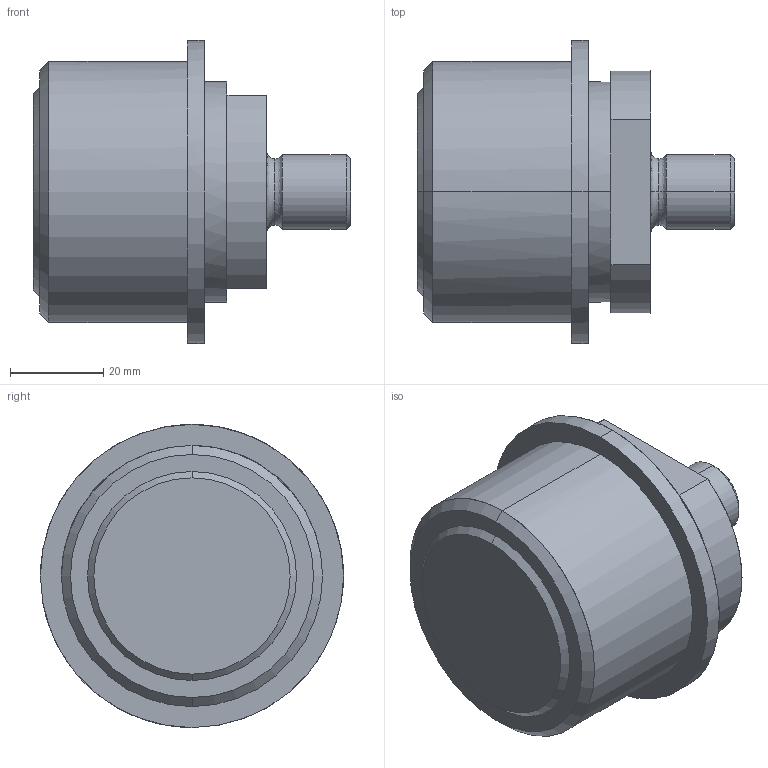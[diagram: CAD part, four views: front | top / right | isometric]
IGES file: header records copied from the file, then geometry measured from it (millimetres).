
Start section: START RECORD GO HERE.
Global section: file name: AGS3412M16.igs; native system: DASSAULT SYSTEMES CATIA V5 R20 - www.3ds.com; preprocessor: CATIA Version 5 Release 20 ; author: Utente; organization: NB04-ASUS; date: 20210221.204011; units: millimetre
Bounding box: 68 x 65 x 65 mm (x, y, z)
Surface area: 16242.6 mm2 (no closed solid volume)
Topology: 0 solids, 0 shells, 32 faces, 180 edges, 180 vertices
Faces by surface type: revolution 20, plane 12
